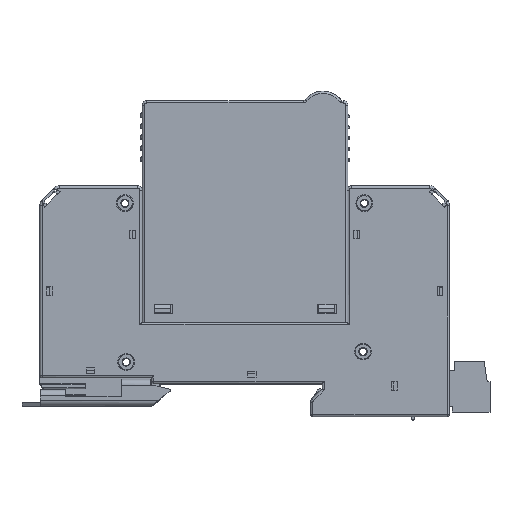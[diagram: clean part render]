
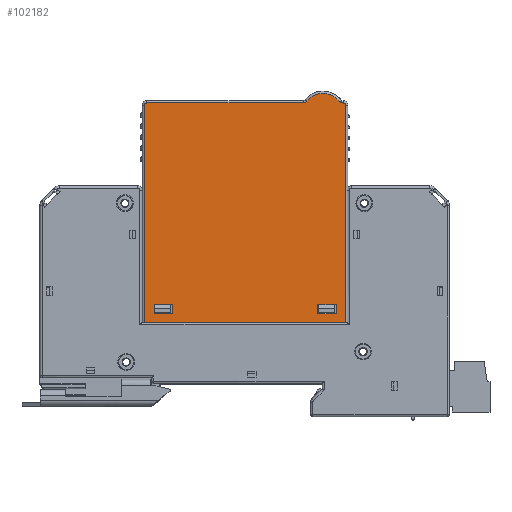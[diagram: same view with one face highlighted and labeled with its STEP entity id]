
A CAD part, top view. The second image highlights one B-rep face of the part: STEP entity #102182.
In plain terms, the highlighted planar face has unit normal (0, 0, 1).
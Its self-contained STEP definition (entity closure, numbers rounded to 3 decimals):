
#58883=DIRECTION('',(1.,0.,0.));
#58884=VECTOR('',#58883,44.2);
#58885=CARTESIAN_POINT('',(-22.,13.5,26.8));
#58886=LINE('',#58885,#58884);
#58887=CARTESIAN_POINT('',(-21.5,61.2,26.8));
#58888=DIRECTION('',(0.,0.,1.));
#58889=DIRECTION('',(0.,1.,0.));
#58890=AXIS2_PLACEMENT_3D('',#58887,#58888,#58889);
#58892=CARTESIAN_POINT('',(12.877,62.7,26.8));
#58893=DIRECTION('',(0.,0.,-1.));
#58894=DIRECTION('',(0.786,-0.618,0.));
#58895=AXIS2_PLACEMENT_3D('',#58892,#58893,#58894);
#58897=CARTESIAN_POINT('',(17.2,59.3,26.8));
#58898=DIRECTION('',(0.,0.,1.));
#58899=DIRECTION('',(0.846,0.533,0.));
#58900=AXIS2_PLACEMENT_3D('',#58897,#58898,#58899);
#58902=CARTESIAN_POINT('',(21.7,61.2,26.8));
#58903=DIRECTION('',(0.,0.,1.));
#58904=DIRECTION('',(1.,0.,0.));
#58905=AXIS2_PLACEMENT_3D('',#58902,#58903,#58904);
#58907=DIRECTION('',(0.,1.,0.));
#58908=VECTOR('',#58907,2.);
#58909=CARTESIAN_POINT('',(-15.9,15.4,26.8));
#58910=LINE('',#58909,#58908);
#58911=DIRECTION('',(-1.,0.,0.));
#58912=VECTOR('',#58911,4.);
#58913=CARTESIAN_POINT('',(-15.9,17.4,26.8));
#58914=LINE('',#58913,#58912);
#58915=DIRECTION('',(0.,-1.,0.));
#58916=VECTOR('',#58915,2.);
#58917=CARTESIAN_POINT('',(-19.9,17.4,26.8));
#58918=LINE('',#58917,#58916);
#58919=DIRECTION('',(1.,0.,0.));
#58920=VECTOR('',#58919,4.);
#58921=CARTESIAN_POINT('',(-19.9,15.4,26.8));
#58922=LINE('',#58921,#58920);
#58923=DIRECTION('',(0.,1.,0.));
#58924=VECTOR('',#58923,2.);
#58925=CARTESIAN_POINT('',(20.1,15.4,26.8));
#58926=LINE('',#58925,#58924);
#58927=DIRECTION('',(-1.,0.,0.));
#58928=VECTOR('',#58927,4.);
#58929=CARTESIAN_POINT('',(20.1,17.4,26.8));
#58930=LINE('',#58929,#58928);
#58931=DIRECTION('',(0.,-1.,0.));
#58932=VECTOR('',#58931,2.);
#58933=CARTESIAN_POINT('',(16.1,17.4,26.8));
#58934=LINE('',#58933,#58932);
#58935=DIRECTION('',(1.,0.,0.));
#58936=VECTOR('',#58935,4.);
#58937=CARTESIAN_POINT('',(16.1,15.4,26.8));
#58938=LINE('',#58937,#58936);
#58939=DIRECTION('',(0.,1.,0.));
#58940=VECTOR('',#58939,47.7);
#58941=CARTESIAN_POINT('',(22.2,13.5,26.8));
#58942=LINE('',#58941,#58940);
#59300=DIRECTION('',(-1.,0.,0.));
#59301=VECTOR('',#59300,0.693);
#59302=CARTESIAN_POINT('',(21.7,61.7,26.8));
#59303=LINE('',#59302,#59301);
#59383=DIRECTION('',(-1.,0.,0.));
#59384=VECTOR('',#59383,34.377);
#59385=CARTESIAN_POINT('',(12.877,61.7,26.8));
#59386=LINE('',#59385,#59384);
#59400=DIRECTION('',(0.,-1.,0.));
#59401=VECTOR('',#59400,47.7);
#59402=CARTESIAN_POINT('',(-22.,61.2,26.8));
#59403=LINE('',#59402,#59401);
#91102=CARTESIAN_POINT('',(22.2,13.5,26.8));
#91103=VERTEX_POINT('',#91102);
#91104=CARTESIAN_POINT('',(-22.,13.5,26.8));
#91105=VERTEX_POINT('',#91104);
#91271=CARTESIAN_POINT('',(20.1,15.4,26.8));
#91272=CARTESIAN_POINT('',(20.1,17.4,26.8));
#91273=VERTEX_POINT('',#91271);
#91274=VERTEX_POINT('',#91272);
#91281=CARTESIAN_POINT('',(16.1,17.4,26.8));
#91282=VERTEX_POINT('',#91281);
#91287=CARTESIAN_POINT('',(16.1,15.4,26.8));
#91288=VERTEX_POINT('',#91287);
#91329=CARTESIAN_POINT('',(-15.9,15.4,26.8));
#91330=CARTESIAN_POINT('',(-15.9,17.4,26.8));
#91331=VERTEX_POINT('',#91329);
#91332=VERTEX_POINT('',#91330);
#91337=CARTESIAN_POINT('',(-19.9,17.4,26.8));
#91338=VERTEX_POINT('',#91337);
#91341=CARTESIAN_POINT('',(-19.9,15.4,26.8));
#91342=VERTEX_POINT('',#91341);
#91345=CARTESIAN_POINT('',(22.2,61.2,26.8));
#91346=VERTEX_POINT('',#91345);
#91347=CARTESIAN_POINT('',(-22.,61.2,26.8));
#91348=VERTEX_POINT('',#91347);
#91349=CARTESIAN_POINT('',(-21.5,61.7,26.8));
#91350=VERTEX_POINT('',#91349);
#91351=CARTESIAN_POINT('',(12.877,61.7,26.8));
#91352=VERTEX_POINT('',#91351);
#91353=CARTESIAN_POINT('',(13.663,62.082,26.8));
#91354=VERTEX_POINT('',#91353);
#91355=CARTESIAN_POINT('',(21.007,61.7,26.8));
#91356=VERTEX_POINT('',#91355);
#91357=CARTESIAN_POINT('',(21.7,61.7,26.8));
#91358=VERTEX_POINT('',#91357);
#102139=CARTESIAN_POINT('',(0.1,38.651,26.8));
#102140=DIRECTION('',(0.,0.,1.));
#102141=DIRECTION('',(1.,0.,0.));
#102142=AXIS2_PLACEMENT_3D('',#102139,#102140,#102141);
#102143=PLANE('',#102142);
#102145=ORIENTED_EDGE('',*,*,#102144,.F.);
#102146=ORIENTED_EDGE('',*,*,#97798,.F.);
#102148=ORIENTED_EDGE('',*,*,#102147,.F.);
#102150=ORIENTED_EDGE('',*,*,#102149,.F.);
#102152=ORIENTED_EDGE('',*,*,#102151,.F.);
#102154=ORIENTED_EDGE('',*,*,#102153,.F.);
#102156=ORIENTED_EDGE('',*,*,#102155,.F.);
#102158=ORIENTED_EDGE('',*,*,#102157,.F.);
#102160=ORIENTED_EDGE('',*,*,#102159,.F.);
#102161=EDGE_LOOP('',(#102145,#102146,#102148,#102150,#102152,#102154,#102156,
#102158,#102160));
#102162=FACE_OUTER_BOUND('',#102161,.F.);
#102164=ORIENTED_EDGE('',*,*,#102163,.T.);
#102166=ORIENTED_EDGE('',*,*,#102165,.T.);
#102168=ORIENTED_EDGE('',*,*,#102167,.T.);
#102170=ORIENTED_EDGE('',*,*,#102169,.T.);
#102171=EDGE_LOOP('',(#102164,#102166,#102168,#102170));
#102172=FACE_BOUND('',#102171,.F.);
#102173=ORIENTED_EDGE('',*,*,#102122,.T.);
#102175=ORIENTED_EDGE('',*,*,#102174,.T.);
#102177=ORIENTED_EDGE('',*,*,#102176,.T.);
#102179=ORIENTED_EDGE('',*,*,#102178,.T.);
#102180=EDGE_LOOP('',(#102173,#102175,#102177,#102179));
#102181=FACE_BOUND('',#102180,.F.);
#102182=ADVANCED_FACE('',(#102162,#102172,#102181),#102143,.T.);
#58891=CIRCLE('',#58890,0.5);
#58896=CIRCLE('',#58895,1.);
#58901=CIRCLE('',#58900,4.5);
#58906=CIRCLE('',#58905,0.5);
#97798=EDGE_CURVE('',#91105,#91103,#58886,.T.);
#102122=EDGE_CURVE('',#91273,#91274,#58926,.T.);
#102144=EDGE_CURVE('',#91103,#91346,#58942,.T.);
#102147=EDGE_CURVE('',#91348,#91105,#59403,.T.);
#102149=EDGE_CURVE('',#91350,#91348,#58891,.T.);
#102151=EDGE_CURVE('',#91352,#91350,#59386,.T.);
#102153=EDGE_CURVE('',#91354,#91352,#58896,.T.);
#102155=EDGE_CURVE('',#91356,#91354,#58901,.T.);
#102157=EDGE_CURVE('',#91358,#91356,#59303,.T.);
#102159=EDGE_CURVE('',#91346,#91358,#58906,.T.);
#102163=EDGE_CURVE('',#91331,#91332,#58910,.T.);
#102165=EDGE_CURVE('',#91332,#91338,#58914,.T.);
#102167=EDGE_CURVE('',#91338,#91342,#58918,.T.);
#102169=EDGE_CURVE('',#91342,#91331,#58922,.T.);
#102174=EDGE_CURVE('',#91274,#91282,#58930,.T.);
#102176=EDGE_CURVE('',#91282,#91288,#58934,.T.);
#102178=EDGE_CURVE('',#91288,#91273,#58938,.T.);
